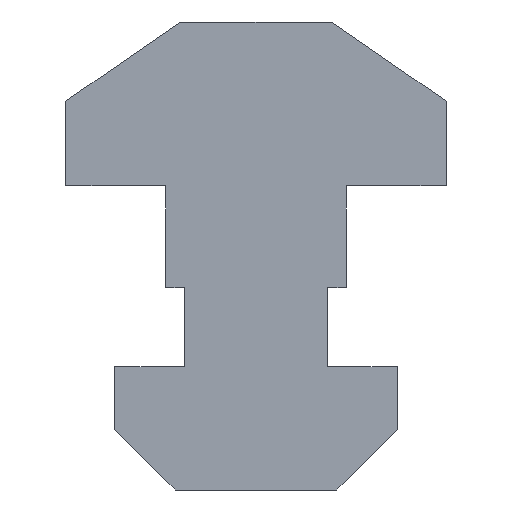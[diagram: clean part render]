
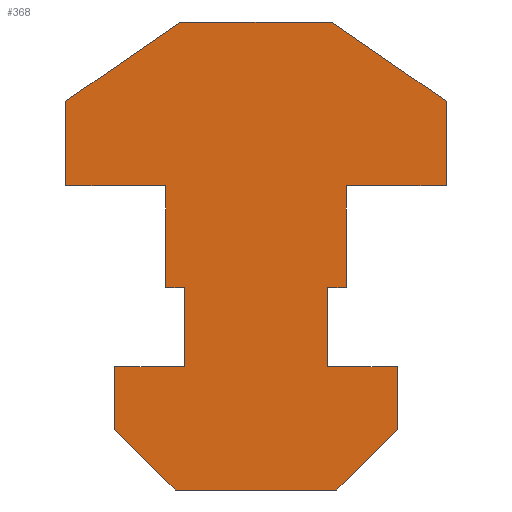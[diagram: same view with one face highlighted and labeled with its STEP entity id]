
A CAD part, front view. The second image highlights one B-rep face of the part: STEP entity #368.
In plain terms, the highlighted planar face has unit normal (0, -1, 0).
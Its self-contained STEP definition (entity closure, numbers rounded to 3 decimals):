
#1=DIRECTION('',(-1.,0.,0.));
#2=VECTOR('',#1,8.6);
#3=CARTESIAN_POINT('',(4.3,0.,-10.75));
#4=LINE('',#3,#2);
#5=DIRECTION('',(-0.707,0.,0.707));
#6=VECTOR('',#5,4.525);
#7=CARTESIAN_POINT('',(-4.3,0.,-10.75));
#8=LINE('',#7,#6);
#9=DIRECTION('',(0.,0.,1.));
#10=VECTOR('',#9,3.35);
#11=CARTESIAN_POINT('',(-7.5,0.,-7.55));
#12=LINE('',#11,#10);
#13=DIRECTION('',(1.,0.,0.));
#14=VECTOR('',#13,3.7);
#15=CARTESIAN_POINT('',(-7.5,0.,-4.2));
#16=LINE('',#15,#14);
#17=DIRECTION('',(0.,0.,1.));
#18=VECTOR('',#17,4.2);
#19=CARTESIAN_POINT('',(-3.8,0.,-4.2));
#20=LINE('',#19,#18);
#21=DIRECTION('',(-1.,0.,0.));
#22=VECTOR('',#21,1.);
#23=CARTESIAN_POINT('',(-3.8,0.,0.));
#24=LINE('',#23,#22);
#25=DIRECTION('',(0.,0.,1.));
#26=VECTOR('',#25,5.4);
#27=CARTESIAN_POINT('',(-4.8,0.,0.));
#28=LINE('',#27,#26);
#29=DIRECTION('',(-1.,0.,0.));
#30=VECTOR('',#29,5.3);
#31=CARTESIAN_POINT('',(-4.8,0.,5.4));
#32=LINE('',#31,#30);
#33=DIRECTION('',(0.,0.,1.));
#34=VECTOR('',#33,4.5);
#35=CARTESIAN_POINT('',(-10.1,0.,5.4));
#36=LINE('',#35,#34);
#37=DIRECTION('',(0.824,0.,0.567));
#38=VECTOR('',#37,7.406);
#39=CARTESIAN_POINT('',(-10.1,0.,9.9));
#40=LINE('',#39,#38);
#41=DIRECTION('',(1.,0.,0.));
#42=VECTOR('',#41,8.);
#43=CARTESIAN_POINT('',(-4.,0.,14.1));
#44=LINE('',#43,#42);
#45=DIRECTION('',(0.824,0.,-0.567));
#46=VECTOR('',#45,7.406);
#47=CARTESIAN_POINT('',(4.,0.,14.1));
#48=LINE('',#47,#46);
#49=DIRECTION('',(0.,0.,-1.));
#50=VECTOR('',#49,4.5);
#51=CARTESIAN_POINT('',(10.1,0.,9.9));
#52=LINE('',#51,#50);
#53=DIRECTION('',(-1.,0.,0.));
#54=VECTOR('',#53,5.3);
#55=CARTESIAN_POINT('',(10.1,0.,5.4));
#56=LINE('',#55,#54);
#57=DIRECTION('',(0.,0.,-1.));
#58=VECTOR('',#57,5.4);
#59=CARTESIAN_POINT('',(4.8,0.,5.4));
#60=LINE('',#59,#58);
#61=DIRECTION('',(-1.,0.,0.));
#62=VECTOR('',#61,1.);
#63=CARTESIAN_POINT('',(4.8,0.,0.));
#64=LINE('',#63,#62);
#65=DIRECTION('',(0.,0.,-1.));
#66=VECTOR('',#65,4.2);
#67=CARTESIAN_POINT('',(3.8,0.,0.));
#68=LINE('',#67,#66);
#69=DIRECTION('',(1.,0.,0.));
#70=VECTOR('',#69,3.7);
#71=CARTESIAN_POINT('',(3.8,0.,-4.2));
#72=LINE('',#71,#70);
#73=DIRECTION('',(0.,0.,-1.));
#74=VECTOR('',#73,3.35);
#75=CARTESIAN_POINT('',(7.5,0.,-4.2));
#76=LINE('',#75,#74);
#77=DIRECTION('',(-0.707,0.,-0.707));
#78=VECTOR('',#77,4.525);
#79=CARTESIAN_POINT('',(7.5,0.,-7.55));
#80=LINE('',#79,#78);
#241=CARTESIAN_POINT('',(4.3,0.,-10.75));
#242=CARTESIAN_POINT('',(-4.3,0.,-10.75));
#243=VERTEX_POINT('',#241);
#244=VERTEX_POINT('',#242);
#245=CARTESIAN_POINT('',(-7.5,0.,-7.55));
#246=VERTEX_POINT('',#245);
#247=CARTESIAN_POINT('',(-7.5,0.,-4.2));
#248=VERTEX_POINT('',#247);
#249=CARTESIAN_POINT('',(-3.8,0.,-4.2));
#250=VERTEX_POINT('',#249);
#251=CARTESIAN_POINT('',(-3.8,0.,0.));
#252=VERTEX_POINT('',#251);
#253=CARTESIAN_POINT('',(-4.8,0.,0.));
#254=VERTEX_POINT('',#253);
#255=CARTESIAN_POINT('',(-4.8,0.,5.4));
#256=VERTEX_POINT('',#255);
#257=CARTESIAN_POINT('',(-10.1,0.,5.4));
#258=VERTEX_POINT('',#257);
#259=CARTESIAN_POINT('',(-10.1,0.,9.9));
#260=VERTEX_POINT('',#259);
#261=CARTESIAN_POINT('',(-4.,0.,14.1));
#262=VERTEX_POINT('',#261);
#263=CARTESIAN_POINT('',(4.,0.,14.1));
#264=VERTEX_POINT('',#263);
#265=CARTESIAN_POINT('',(10.1,0.,9.9));
#266=VERTEX_POINT('',#265);
#267=CARTESIAN_POINT('',(10.1,0.,5.4));
#268=VERTEX_POINT('',#267);
#269=CARTESIAN_POINT('',(4.8,0.,5.4));
#270=VERTEX_POINT('',#269);
#271=CARTESIAN_POINT('',(4.8,0.,0.));
#272=VERTEX_POINT('',#271);
#273=CARTESIAN_POINT('',(3.8,0.,0.));
#274=VERTEX_POINT('',#273);
#275=CARTESIAN_POINT('',(3.8,0.,-4.2));
#276=VERTEX_POINT('',#275);
#277=CARTESIAN_POINT('',(7.5,0.,-4.2));
#278=VERTEX_POINT('',#277);
#279=CARTESIAN_POINT('',(7.5,0.,-7.55));
#280=VERTEX_POINT('',#279);
#321=CARTESIAN_POINT('',(0.,0.,0.));
#322=DIRECTION('',(0.,1.,0.));
#323=DIRECTION('',(1.,0.,0.));
#324=AXIS2_PLACEMENT_3D('',#321,#322,#323);
#325=PLANE('',#324);
#327=ORIENTED_EDGE('',*,*,#326,.T.);
#329=ORIENTED_EDGE('',*,*,#328,.T.);
#331=ORIENTED_EDGE('',*,*,#330,.T.);
#333=ORIENTED_EDGE('',*,*,#332,.T.);
#335=ORIENTED_EDGE('',*,*,#334,.T.);
#337=ORIENTED_EDGE('',*,*,#336,.T.);
#339=ORIENTED_EDGE('',*,*,#338,.T.);
#341=ORIENTED_EDGE('',*,*,#340,.T.);
#343=ORIENTED_EDGE('',*,*,#342,.T.);
#345=ORIENTED_EDGE('',*,*,#344,.T.);
#347=ORIENTED_EDGE('',*,*,#346,.T.);
#349=ORIENTED_EDGE('',*,*,#348,.T.);
#351=ORIENTED_EDGE('',*,*,#350,.T.);
#353=ORIENTED_EDGE('',*,*,#352,.T.);
#355=ORIENTED_EDGE('',*,*,#354,.T.);
#357=ORIENTED_EDGE('',*,*,#356,.T.);
#359=ORIENTED_EDGE('',*,*,#358,.T.);
#361=ORIENTED_EDGE('',*,*,#360,.T.);
#363=ORIENTED_EDGE('',*,*,#362,.T.);
#365=ORIENTED_EDGE('',*,*,#364,.T.);
#366=EDGE_LOOP('',(#327,#329,#331,#333,#335,#337,#339,#341,#343,#345,#347,#349,
#351,#353,#355,#357,#359,#361,#363,#365));
#367=FACE_OUTER_BOUND('',#366,.F.);
#368=ADVANCED_FACE('',(#367),#325,.F.);
#326=EDGE_CURVE('',#243,#244,#4,.T.);
#328=EDGE_CURVE('',#244,#246,#8,.T.);
#330=EDGE_CURVE('',#246,#248,#12,.T.);
#332=EDGE_CURVE('',#248,#250,#16,.T.);
#334=EDGE_CURVE('',#250,#252,#20,.T.);
#336=EDGE_CURVE('',#252,#254,#24,.T.);
#338=EDGE_CURVE('',#254,#256,#28,.T.);
#340=EDGE_CURVE('',#256,#258,#32,.T.);
#342=EDGE_CURVE('',#258,#260,#36,.T.);
#344=EDGE_CURVE('',#260,#262,#40,.T.);
#346=EDGE_CURVE('',#262,#264,#44,.T.);
#348=EDGE_CURVE('',#264,#266,#48,.T.);
#350=EDGE_CURVE('',#266,#268,#52,.T.);
#352=EDGE_CURVE('',#268,#270,#56,.T.);
#354=EDGE_CURVE('',#270,#272,#60,.T.);
#356=EDGE_CURVE('',#272,#274,#64,.T.);
#358=EDGE_CURVE('',#274,#276,#68,.T.);
#360=EDGE_CURVE('',#276,#278,#72,.T.);
#362=EDGE_CURVE('',#278,#280,#76,.T.);
#364=EDGE_CURVE('',#280,#243,#80,.T.);
